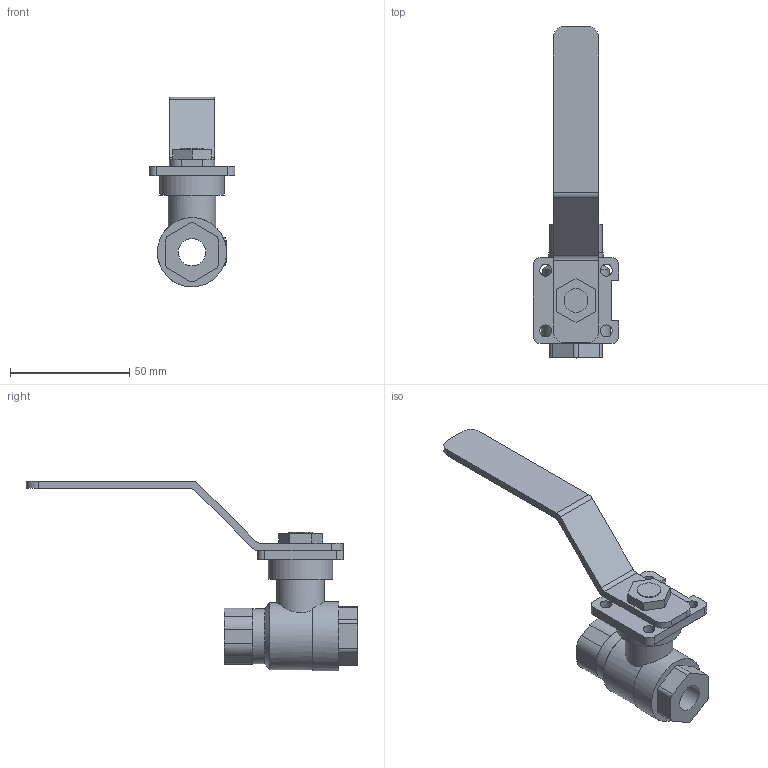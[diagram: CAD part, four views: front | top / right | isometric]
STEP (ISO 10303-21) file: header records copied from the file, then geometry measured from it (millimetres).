
FILE_DESCRIPTION(('STEP AP203'), '1');
FILE_NAME('3D_7015-008-63_1', '', ('UNSPECIFIED'), ('UNSPECIFIED'), 'C3D Converter', 'C3D Toolkit', '');
FILE_SCHEMA(('CONFIG_CONTROL_DESIGN'));
Length unit declared in the file: millimetre
Bounding box: 36 x 139 x 79.48 mm (x, y, z)
Volume: 46238 mm3; surface area: 17958.3 mm2
Topology: 11 solids, 11 shells, 933 faces, 2711 edges, 1804 vertices
Faces by surface type: plane 897, cylinder 35, cone 1
Full cylindrical faces by diameter (mm): 5 x4, 10 x1, 11.5 x1, 20 x1, 23 x1, 27 x1, 28 x1, 29 x1
Entity records: 38071 total; most frequent: CARTESIAN_POINT 5765, ORIENTED_EDGE 5398, DIRECTION 4665, EDGE_CURVE 2699, LINE 2595, VECTOR 2595, VERTEX_POINT 1804, AXIS2_PLACEMENT_3D 1035
